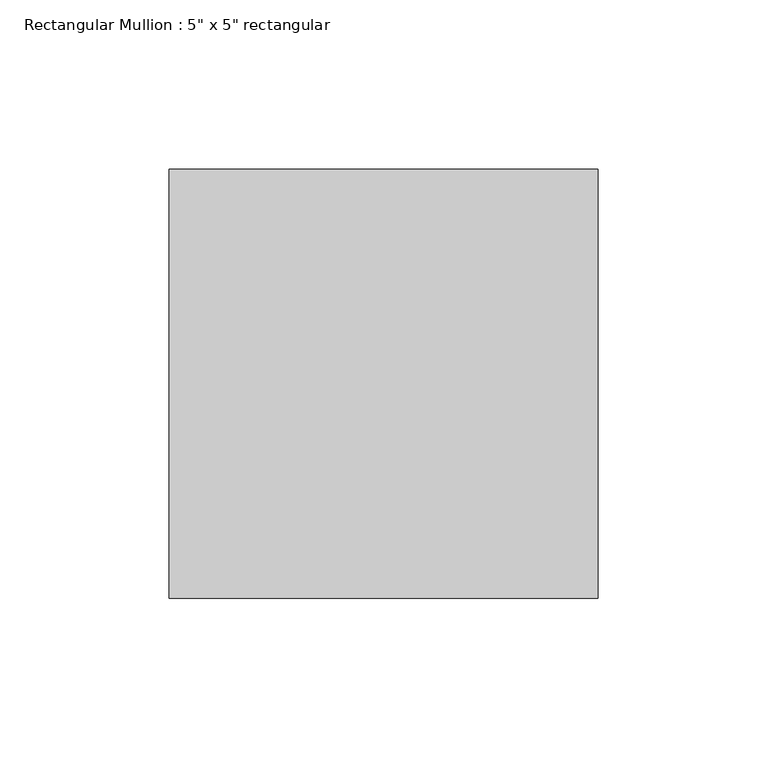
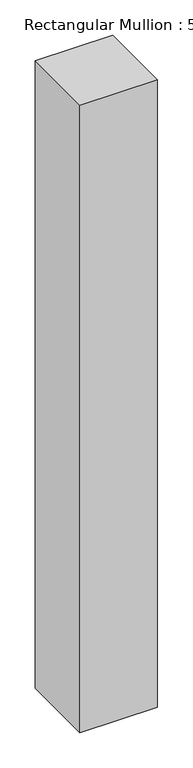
"""IFC4 building model written with IfcOpenShell, lengths in millimetres: member geometry."""

from ifc_helpers import new_model, si_unit, frame, origin, place, context, project, spatial, polyline, outline, extrude, source, transform, mapped, element, save


def member_3f6b8746(model_context):
    return source(origin(), model_context, "Body", "SweptSolid", [
        extrude(outline(polyline([(63.5, 63.5), (63.5, -63.5), (-63.5, -63.5), (-63.5, 63.5), (63.5, 63.5)])), frame((0.0, 0.0, -1088.23125), z_axis=(0.0, 0.0, 1.0), x_axis=(1.0, 0.0, 0.0)), (0.0, 0.0, 1.0), 1088.23125),
    ])


if __name__ == "__main__":
    model = new_model("IFC4")
    model_context = context("Model", 3, world=origin())
    ifc_project = project(units=[si_unit("LENGTHUNIT", "METRE", prefix="MILLI")], contexts=[model_context])
    site = spatial("IfcSite", under=ifc_project)
    building = spatial("IfcBuilding", under=site)
    placement = place(None, origin())
    member_shape = member_3f6b8746(model_context)
    element("IfcMember", 1, ObjectType="Rectangular Mullion : 5\" x 5\" rectangular", at=placement, inside=building, context=model_context, shape_type="MappedRepresentation", body=[
        mapped(member_shape, transform((0.0, 0.0, 0.0), x_axis=(1.0, 0.0, 0.0), y_axis=(0.0, 1.0, 0.0), z_axis=(0.0, 0.0, 1.0))),
    ])
    save(model, "model.ifc")
